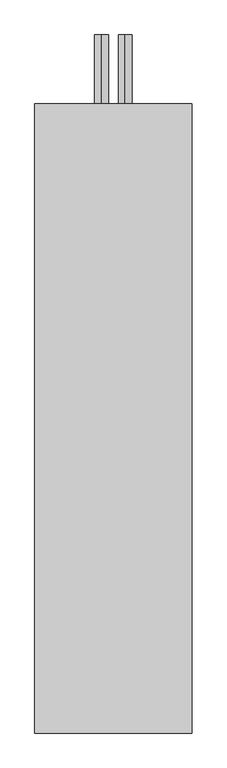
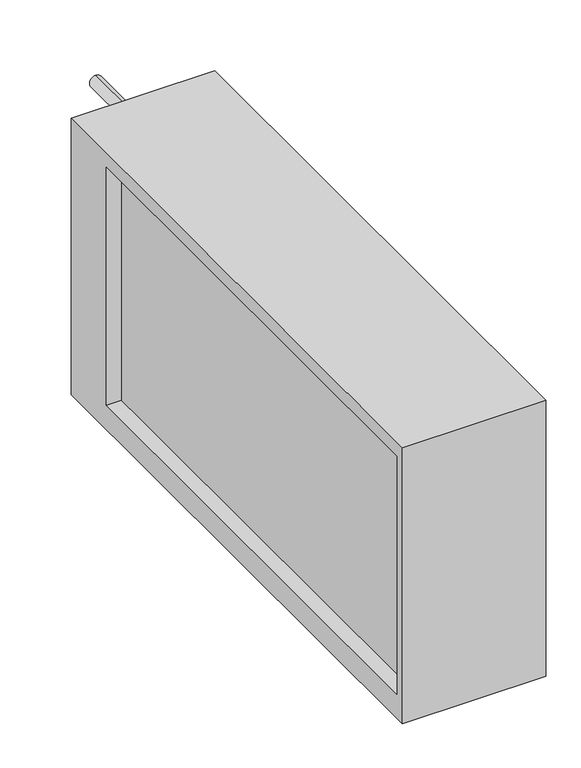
"""IFC4 building model written with IfcOpenShell, lengths in millimetres: proxy geometry, СВ_ВоздухоохладительВодяной_КанальныйПрямоугольный_200-1000_SPC-W : SPC-W-1000x500-L."""

from ifc_helpers import new_model, si_unit, point, frame, frame_2d, origin, place, context, project, spatial, polyline, circle_curve, trimmed, segment, composite_curve, outline, extrude, source, transform, mapped, element, save


def mechanical_equipment_6bb9439d(model_context):
    return source(origin(), model_context, "Body", "SweptSolid", [
        extrude(outline(polyline([(-520.0, -300.0), (-520.0, 280.0), (620.0, 280.0), (620.0, -300.0), (-520.0, -300.0)]), holes=[polyline([(-500.0, 250.0), (-500.0, -250.0), (500.0, -250.0), (500.0, 250.0), (-500.0, 250.0)])]), frame((-142.5, 0.0, 0.0), z_axis=(1.0, 0.0, 0.0), x_axis=(0.0, 1.0, 0.0)), (0.0, 0.0, 1.0), 285.0),
        extrude(outline(composite_curve([segment(trimmed(circle_curve(frame_2d((-240.0, 21.5)), 12.5), [point((-252.5, 21.5))], [point((-227.5, 21.5))], False, "CARTESIAN"), True, "CONTINUOUS"), segment(trimmed(circle_curve(frame_2d((-240.0, 21.5)), 12.5), [point((-227.5, 21.5))], [point((-252.5, 21.5))], False, "CARTESIAN"), True, "CONTINUOUS")], self_intersect=False)), frame((0.0, 620.0, 0.0), z_axis=(0.0, 1.0, 0.0), x_axis=(0.0, 0.0, 1.0)), (0.0, 0.0, 1.0), 125.0),
        extrude(outline(composite_curve([segment(trimmed(circle_curve(frame_2d((240.0, -21.5)), 12.5), [point((227.5, -21.5))], [point((252.5, -21.5))], False, "CARTESIAN"), True, "CONTINUOUS"), segment(trimmed(circle_curve(frame_2d((240.0, -21.5)), 12.5), [point((252.5, -21.5))], [point((227.5, -21.5))], False, "CARTESIAN"), True, "CONTINUOUS")], self_intersect=False)), frame((0.0, 620.0, 0.0), z_axis=(0.0, 1.0, 0.0), x_axis=(0.0, 0.0, 1.0)), (0.0, 0.0, 1.0), 125.0),
        extrude(outline(composite_curve([segment(trimmed(circle_curve(frame_2d((0.0, 580.0)), 11.0), [point((-11.0, 580.0))], [point((11.0, 580.0))], False, "CARTESIAN"), True, "CONTINUOUS"), segment(trimmed(circle_curve(frame_2d((0.0, 580.0)), 11.0), [point((11.0, 580.0))], [point((-11.0, 580.0))], False, "CARTESIAN"), True, "CONTINUOUS")], self_intersect=False)), frame((0.0, 0.0, -320.0), z_axis=(0.0, 0.0, 1.0), x_axis=(1.0, 0.0, 0.0)), (0.0, 0.0, 1.0), 20.0),
        extrude(outline(polyline([(112.5, 500.0), (112.5, -500.0), (-112.5, -500.0), (-112.5, 500.0), (112.5, 500.0)])), frame((0.0, 0.0, -250.0), z_axis=(0.0, 0.0, 1.0), x_axis=(1.0, 0.0, 0.0)), (0.0, 0.0, 1.0), 500.0),
    ])


if __name__ == "__main__":
    model = new_model("IFC4")
    model_context = context("Model", 3, world=origin())
    ifc_project = project(units=[si_unit("LENGTHUNIT", "METRE", prefix="MILLI")], contexts=[model_context])
    site = spatial("IfcSite", under=ifc_project)
    building = spatial("IfcBuilding", under=site)
    placement = place(None, origin())
    mechanical_equipment_shape = mechanical_equipment_6bb9439d(model_context)
    element("IfcBuildingElementProxy", 1, Name="СВ_ВоздухоохладительВодяной_КанальныйПрямоугольный_200-1000_SPC-W : SPC-W-1000x500-L", ObjectType="СВ_ВоздухоохладительВодяной_КанальныйПрямоугольный_200-1000_SPC-W : SPC-W-1000x500-L", at=placement, inside=building, context=model_context, shape_type="MappedRepresentation", body=[
        mapped(mechanical_equipment_shape, transform((0.0, 0.0, 0.0), x_axis=(1.0, 0.0, 0.0), y_axis=(0.0, 1.0, 0.0), z_axis=(0.0, 0.0, 1.0))),
    ])
    save(model, "model.ifc")
